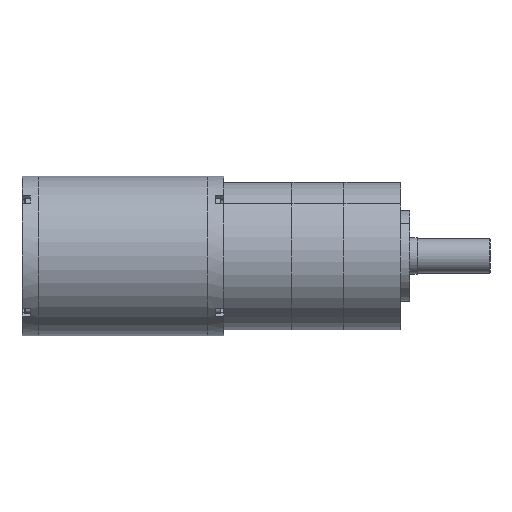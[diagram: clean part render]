
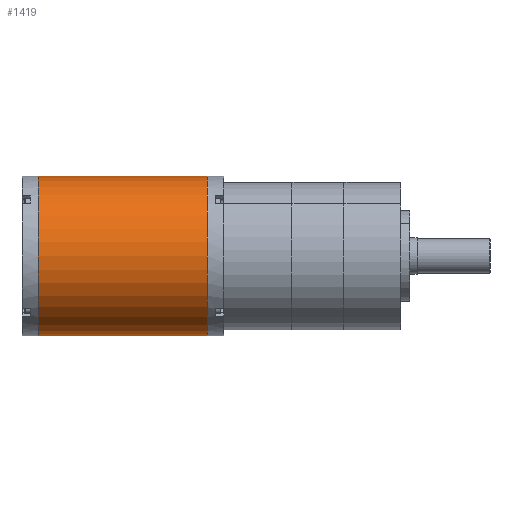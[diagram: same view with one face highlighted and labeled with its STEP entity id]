
A CAD part, front view. The second image highlights one B-rep face of the part: STEP entity #1419.
In plain terms, the highlighted cylindrical face has radius 43.69 mm (diameter 87.38 mm), a partial arc.
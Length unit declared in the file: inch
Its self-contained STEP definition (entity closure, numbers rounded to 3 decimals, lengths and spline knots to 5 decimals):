
#357 = CARTESIAN_POINT ( 'NONE',  ( 2.85858, 2.42553, 5.80798 ) ) ;
#428 = CARTESIAN_POINT ( 'NONE',  ( 7.7237, 2.42553, 2.36782 ) ) ;
#586 = ORIENTED_EDGE ( 'NONE', *, *, #11846, .F. ) ;
#1158 = FACE_OUTER_BOUND ( 'NONE', #11787, .T. ) ;
#1175 = LINE ( 'NONE', #428, #10405 ) ;
#1419 = ADVANCED_FACE ( 'NONE', ( #1158 ), #7005, .T. ) ;
#2359 = CARTESIAN_POINT ( 'NONE',  ( 7.7237, 2.42553, 4.0879 ) ) ;
#2519 = CARTESIAN_POINT ( 'NONE',  ( -0.79142, 2.42553, 4.0879 ) ) ;
#3408 = EDGE_CURVE ( 'NONE', #6094, #11345, #7707, .T. ) ;
#3629 = DIRECTION ( 'NONE',  ( 0., 0., -1. ) ) ;
#4212 = VECTOR ( 'NONE', #5793, 39.37008 ) ;
#4327 = DIRECTION ( 'NONE',  ( 1., 0., 0. ) ) ;
#5014 = AXIS2_PLACEMENT_3D ( 'NONE', #2519, #4327, #8305 ) ;
#5026 = LINE ( 'NONE', #10319, #4212 ) ;
#5422 = CARTESIAN_POINT ( 'NONE',  ( -0.79142, 2.42553, 2.36782 ) ) ;
#5793 = DIRECTION ( 'NONE',  ( -1., 0., 0. ) ) ;
#5872 = VERTEX_POINT ( 'NONE', #5422 ) ;
#6057 = ORIENTED_EDGE ( 'NONE', *, *, #6437, .T. ) ;
#6094 = VERTEX_POINT ( 'NONE', #357 ) ;
#6437 = EDGE_CURVE ( 'NONE', #6094, #12656, #5026, .T. ) ;
#6440 = CIRCLE ( 'NONE', #5014, 1.72008 ) ;
#7005 = CYLINDRICAL_SURFACE ( 'NONE', #9962, 1.72008 ) ;
#7443 = DIRECTION ( 'NONE',  ( 1., 0., 0. ) ) ;
#7707 = CIRCLE ( 'NONE', #8744, 1.72008 ) ;
#7781 = CARTESIAN_POINT ( 'NONE',  ( -0.79142, 2.42553, 5.80798 ) ) ;
#8305 = DIRECTION ( 'NONE',  ( 0., 0., -1. ) ) ;
#8744 = AXIS2_PLACEMENT_3D ( 'NONE', #9444, #7443, #3629 ) ;
#9302 = DIRECTION ( 'NONE',  ( 0., 0., 1. ) ) ;
#9444 = CARTESIAN_POINT ( 'NONE',  ( 2.85858, 2.42553, 4.0879 ) ) ;
#9962 = AXIS2_PLACEMENT_3D ( 'NONE', #2359, #12223, #9302 ) ;
#10117 = CARTESIAN_POINT ( 'NONE',  ( 2.85858, 2.42553, 2.36782 ) ) ;
#10259 = ORIENTED_EDGE ( 'NONE', *, *, #3408, .F. ) ;
#10319 = CARTESIAN_POINT ( 'NONE',  ( 7.7237, 2.42553, 5.80798 ) ) ;
#10402 = EDGE_CURVE ( 'NONE', #12656, #5872, #6440, .T. ) ;
#10405 = VECTOR ( 'NONE', #11272, 39.37008 ) ;
#11272 = DIRECTION ( 'NONE',  ( -1., 0., 0. ) ) ;
#11345 = VERTEX_POINT ( 'NONE', #10117 ) ;
#11787 = EDGE_LOOP ( 'NONE', ( #586, #10259, #6057, #12466 ) ) ;
#11846 = EDGE_CURVE ( 'NONE', #11345, #5872, #1175, .T. ) ;
#12223 = DIRECTION ( 'NONE',  ( -1., 0., 0. ) ) ;
#12466 = ORIENTED_EDGE ( 'NONE', *, *, #10402, .T. ) ;
#12656 = VERTEX_POINT ( 'NONE', #7781 ) ;
